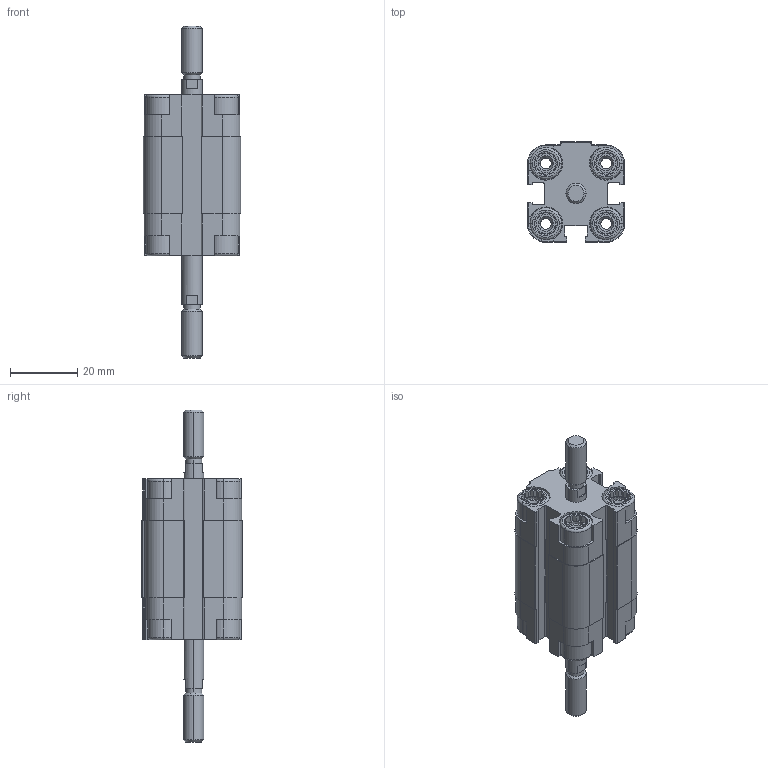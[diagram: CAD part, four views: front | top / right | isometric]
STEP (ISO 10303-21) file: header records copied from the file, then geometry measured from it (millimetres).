
FILE_DESCRIPTION (( 'STEP AP203' ), '1' );
FILE_NAME ('CDVU12-10M-P.STEP', '2020-07-21T14:55:26', ( '' ), ( '' ), 'SwSTEP 2.0', 'SolidWorks 2019', '' );
FILE_SCHEMA (( 'CONFIG_CONTROL_DESIGN' ));
Length unit declared in the file: millimetre
Products named in the file (1): CDVU12-10M-P
Bounding box: 29 x 30 x 99 mm (x, y, z)
Volume: 31152.1 mm3; surface area: 16316.4 mm2
Topology: 2 solids, 2 shells, 566 faces, 1504 edges, 978 vertices
Faces by surface type: plane 338, cylinder 164, cone 48, torus 16
Entity records: 17771 total; most frequent: CARTESIAN_POINT 3621, ORIENTED_EDGE 3000, DIRECTION 2850, EDGE_CURVE 1500, VERTEX_POINT 978, AXIS2_PLACEMENT_3D 975, VECTOR 900, LINE 900
